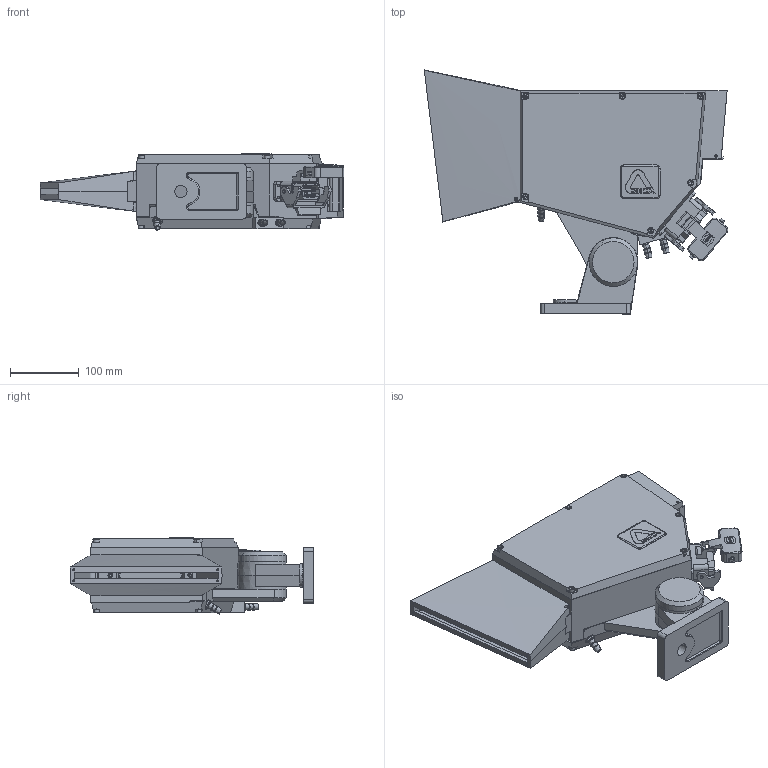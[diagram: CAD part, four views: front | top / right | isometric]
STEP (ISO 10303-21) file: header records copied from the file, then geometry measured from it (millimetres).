
FILE_DESCRIPTION (( 'STEP AP214' ), '1' );
FILE_NAME ('TS2000 Mechanical Dimensions.STEP', '2011-03-04T15:10:17', ( 'sz' ), ( 'delta' ), 'SwSTEP 2.0', 'SolidWorks 2009', '' );
FILE_SCHEMA (( 'AUTOMOTIVE_DESIGN' ));
Length unit declared in the file: millimetre
Products named in the file (19): Air supply Long_??; Hood for TS-DC3000_??; toggle joint_??; Etiquette ref Delta; connect 3; Rear Cover_??; connect harting 15B; Water supply_??; connect2; connect; support for TS_??; Slotted Pan Head Screw_DIN_ISO 1580 - M4 x 10 --- 10N; logo delta; Socket Head Cap Screw_DIN_DIN 912 M5 x 16 --- 16N; TS2000 Mechanical Dimensions; Housing for TS MD_??; Cooling plate for TS_??; A15019_??; Housing cover_??
Assembly tree (46 placements, depth 3):
  TS2000 Mechanical Dimensions
    Socket Head Cap Screw_DIN_DIN 912 M5 x 16 --- 16N  x14
    toggle joint_??
    Cooling plate for TS_??
    Slotted Pan Head Screw_DIN_ISO 1580 - M4 x 10 --- 10N
    Water supply_??  x2
    Etiquette ref Delta
    logo delta
    Housing for TS MD_??
    A15019_??
    Rear Cover_??
    support for TS_??
    connect harting 15B
      connect 3  x15
      connect2
      connect
    Air supply Long_??
    Housing cover_??
    Hood for TS-DC3000_??
Bounding box: 439.87 x 353.62 x 110.32 mm (x, y, z)
Volume: 5876556.4 mm3; surface area: 726430.9 mm2
Topology: 45 solids, 45 shells, 3608 faces, 9104 edges, 5833 vertices
Faces by surface type: plane 1849, cylinder 950, bspline 491, cone 197, torus 86, sphere 35
Entity records: 103150 total; most frequent: CARTESIAN_POINT 27551, ORIENTED_EDGE 15150, DIRECTION 12332, EDGE_CURVE 7575, VERTEX_POINT 4966, VECTOR 4952, LINE 4952, AXIS2_PLACEMENT_3D 3690
